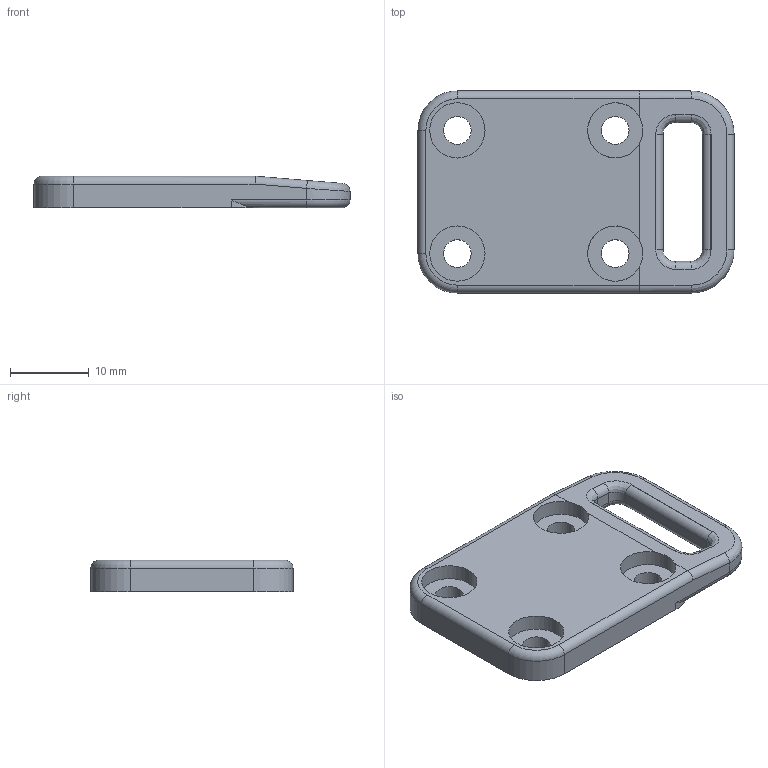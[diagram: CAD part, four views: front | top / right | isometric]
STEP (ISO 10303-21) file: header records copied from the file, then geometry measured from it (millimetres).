
FILE_DESCRIPTION (( 'STEP AP214' ), '1' );
FILE_NAME ('Äåòàëü4^Monster 4x4.STEP', '2019-03-23T07:04:53', ( '' ), ( '' ), 'SwSTEP 2.0', 'SolidWorks 2018', '' );
FILE_SCHEMA (( 'AUTOMOTIVE_DESIGN' ));
Length unit declared in the file: millimetre
Products named in the file (1): 櫻蠉錪4^Monster 4x4
Bounding box: 40.05 x 25.6 x 4 mm (x, y, z)
Volume: 3120.8 mm3; surface area: 2518.7 mm2
Topology: 1 solids, 1 shells, 73 faces, 177 edges, 108 vertices
Faces by surface type: cylinder 44, plane 15, torus 8, bspline 6
Entity records: 2347 total; most frequent: CARTESIAN_POINT 601, DIRECTION 375, ORIENTED_EDGE 354, EDGE_CURVE 177, AXIS2_PLACEMENT_3D 150, VERTEX_POINT 108, EDGE_LOOP 85, CIRCLE 82
